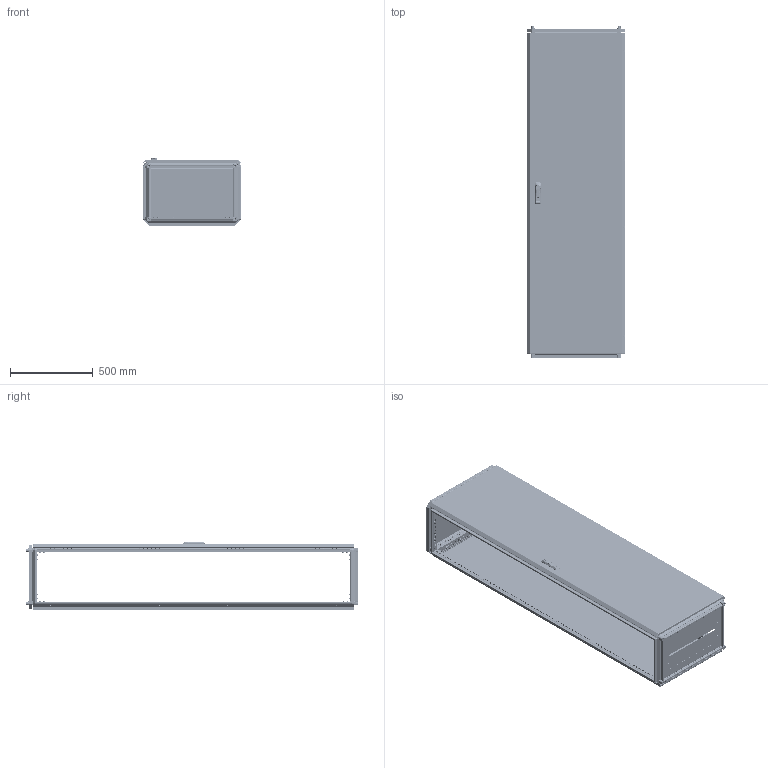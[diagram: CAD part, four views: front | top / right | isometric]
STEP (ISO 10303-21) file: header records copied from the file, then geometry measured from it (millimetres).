
FILE_DESCRIPTION (( 'STEP AP203' ), '1' );
FILE_NAME ('MA1.000.060420.10.00 AleSta2064 Øêàô AleSta 600õ400õ2000.STEP', '2024-08-23T08:23:59', ( '' ), ( '' ), 'SwSTEP 2.0', 'SolidWorks 2021', '' );
FILE_SCHEMA (( 'CONFIG_CONTROL_DESIGN' ));
Length unit declared in the file: millimetre
Products named in the file (51): MA1.200.060620.11.01 Ïîëîòíî çàäíåé ïàíåëè 2000õ600_2000å600; MA1.101.060620.00.02 Ïðîôèëü ïîïåðå÷íûé ñâàðíîé_00 L=298 (˜=400); ﾘ琺矜 01.019 ﾃﾎﾑﾒ11371-78_12; MA1.200.060620.31.01 Ïîëîòíî äâåðè ñïëîøíîé 2000õ600_‚=2000; Óïëîòíèòåëü ïàíåëè íèæíåé_¯® ¢ëá®â¥ 600å2000; MS463-2-3(1); òÿãà_lg001-2.STEP_‚=2000; Øàéáà ñòîïîðíàÿ ñ íàðóæíûìè çóáöàìè SCHNORR, òèï VS öèíêîâûå õëîïüÿ Ì6 O6,4 ART 88121_Œ6; MA1.100.060620.00.01 Ñîåäèíèòåëü óãëîâîé_00; MA1.101.060620.00.00 AleSta-RB66 Êîìïëåêò êðûøà è îñíîâàíèå_600å400; Âèíò ñàìîíàðåçàþùèé ñ ïîòàéíîé ãîëîâêîé Ì5x14 DIN 7500 M TORX, êëàññ ïðî÷íîñòè 8.8, îöèíêîâàííàÿ ñòàëü_Œ5å14; êðåïëåíèå_êðóãëîé_òÿãè_RG1020-1.stp; Øïèëüêà Ì6õ12_˜¯¨«ìª  Œ6å16; Øïèëüêà Ì6õ12_˜¯¨«ìª  Œ6å20; ﾘ琺矜 65ﾃ 019 ﾃﾎﾑﾒ 6402-70_12; MA1.200.060620.31.03 Ðåéêà íà äâåðü ãîðèçîíòàëüíàÿ Ø = 600_˜ = 600; MA1.000.060420.10.00 AleSta2064 Øêàô AleSta 600õ400õ2000; Îñü ïåòëè 4õ52_‚¨­â A.M4x0,5x40 ƒŽ‘’ 11644-75; MA1.101.060620.00.02 Ïðîôèëü ïîïåðå÷íûé ñâàðíîé_01 L=498 (˜=600); Âèíò_ðåçüáîâûäàâëèâàþùèé_Ì5õ12_DIN 7500E_00; MA1.200.060620.31.00 Äâåðü ñïëîøíàÿ äëÿ øêàôîâ ALESTA ÂõØ 2000õ600_2000å600; Ãàéêà ñàìîêîíòðÿùàÿñÿ ñ íåéëîíîâîé âñòàâêîé Ì6 DIN 985, êëàññ ïðî÷íîñòè 8, îöèíêîâàííàÿ ñòàëü_Œ5; MA1.200.060620.11.00 Ïàíåëü çàäíÿÿ, äëÿ øêàôîâ AleSta, 2000x600_2000å600; MA1.101.060620.20.01 Ïîëîòíî íèæíåé ïàíåëè 600õ600_600å400; Øïèëüêà Ì6õ12_˜¯¨«ìª  Œ6å12; 7380-2 ISO Âèíòû ñ ïîëóêðóãëîé ãîëîâêîé ñ ôëàíöåì ñ âíóòðåííèì øåñòèãðàííèêîì Ì4õ10; Âèíò ñ âí. øåñòèãðàííèêîì M12 DIN912_•30; MA1.102.060620.00.01 Ïðîôèëü âåðòèêàëüíûé ñâàðíîé_04 L=1898 (‚=2000); 諘蜱齁罻 022 瀁錒瀔隮; MA1.101.060620.20.00 Íèæíÿÿ ïàíåëü 600õ600_600å400; Ïåòëÿ íà äâåðü ï-îáðàçíàÿ; MA1.101.060620.20.02 Çàêðûòèå íèæíåé ïàíåëè 600õ600_600å400; MA1.200.060620.31.04 ðèãåëü çàìêà äâåðè; Óïëîòíèòåëü ïàíåëè íèæíåé_600å400; Ïðîáêà ïëàñòèêîâàÿ óíèâåðñàëüíàÿ ïîä îòâåðñòèå 4,5 ìì, ñåðèÿ ST, öâåò áåñöâåòíûé – ST4,5; Áîëò øåñòèãðàííûé Ì5õ12 DIN 933, êëàññ ïðî÷íîñòè 8.8, îöèíêîâàííàÿ ñòàëü; Âèíò ñàìîíàðåçàþùèé ñ ïîòàéíîé ãîëîâêîé Ì5x14 DIN 7500 M TORX, êëàññ ïðî÷íîñòè 8.8, îöèíêîâàííàÿ ñòàëü_Œ5å12; MA1.101.060620.10.00 Êðûøà 600x600_600å400; äåðæàòåëü_êðóãëîé_òÿãèRG002-RG1010-2-i-RG1010-3-.stp; MA1.200.060620.10.00 AleSta-PR206  Ïàíåëü çàäíÿÿ, äëÿ øêàôîâ ALESTA, 2000 x 600_2000å600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
Assembly tree (337 placements, depth 4):
  MA1.000.060420.10.00 AleSta2064 Øêàô AleSta 600õ400õ2000
    MA1.101.060620.00.00 AleSta-RB66 Êîìïëåêò êðûøà è îñíîâàíèå_600å400
      MA1.101.060620.00.02 Ïðîôèëü ïîïåðå÷íûé ñâàðíîé_00 L=298 (˜=400)  x4
      MA1.101.060620.00.02 Ïðîôèëü ïîïåðå÷íûé ñâàðíîé_01 L=498 (˜=600)  x4
      MA1.101.060620.10.00 Êðûøà 600x600_600å400
        MA1.101.060620.10.01 Ïîëîòíî êðûøè 600õ600_600å400
        Øïèëüêà Ì6õ12_˜¯¨«ìª  Œ6å12  x4
        Óïëîòíèòåëü ïàíåëè íèæíåé_600å400
      MA1.101.060620.20.00 Íèæíÿÿ ïàíåëü 600õ600_600å400
        MA1.101.060620.20.01 Ïîëîòíî íèæíåé ïàíåëè 600õ600_600å400
        ﾇﾀﾊﾋﾅﾏﾊﾀ ﾃﾀﾅﾗﾍﾀﾟ ﾘﾅﾑﾒﾈﾃﾐﾀﾍﾍﾀﾟ ﾑ ﾓﾌﾅﾍﾜﾘﾅﾍﾍﾛﾌ ﾁﾎﾐﾒﾎﾌ M4 X 11 (0.5-2.5 ﾌﾌ) HEX U-S ﾖﾈﾍﾊ  x4
        MA1.101.060620.20.02 Çàêðûòèå íèæíåé ïàíåëè 600õ600_600å400  x2
        7380-2 ISO Âèíòû ñ ïîëóêðóãëîé ãîëîâêîé ñ ôëàíöåì ñ âíóòðåííèì øåñòèãðàííèêîì Ì4õ10  x4
      Âèíò_ðåçüáîâûäàâëèâàþùèé_Ì5õ12_DIN 7500E_Œ5å12  x8
      MA1.100.060620.00.01 Ñîåäèíèòåëü óãëîâîé_00  x8
      Âèíò ñ âí. øåñòèãðàííèêîì M12 DIN912_•30  x4
      Âèíò ðåçüáîâûäàâëèâàþùèé Ì6õ12 DIN 7500E_Œ6å10  x96
      ﾘ琺矜 01.019 ﾃﾎﾑﾒ11371-78_12  x4
      ﾘ琺矜 65ﾃ 019 ﾃﾎﾑﾒ 6402-70_12  x4
      Øàéáà ñòîïîðíàÿ ñ íàðóæíûìè çóáöàìè SCHNORR, òèï VS öèíêîâûå õëîïüÿ Ì6 O6,4 ART 88121_Œ6  x80
    MA1.102.060620.00.00 AleSta-VG2000 Ñòîéêè âåðòèêàëüíûå, Â=2000ìì  (4øò)_600å400
      MA1.102.060620.00.01 Ïðîôèëü âåðòèêàëüíûé ñâàðíîé_04 L=1898 (‚=2000)  x4
    MA1.200.060620.10.00 AleSta-PR206  Ïàíåëü çàäíÿÿ, äëÿ øêàôîâ ALESTA, 2000 x 600_2000å600
      MA1.200.060620.11.00 Ïàíåëü çàäíÿÿ, äëÿ øêàôîâ AleSta, 2000x600_2000å600
        MA1.200.060620.11.01 Ïîëîòíî çàäíåé ïàíåëè 2000õ600_2000å600
        Óïëîòíèòåëü ïàíåëè íèæíåé_¯® ¢ëá®â¥ 600å2000
        Øïèëüêà Ì6õ12_˜¯¨«ìª  Œ6å12  x4
      Âèíò ñàìîíàðåçàþùèé ñ ïîòàéíîé ãîëîâêîé Ì5x14 DIN 7500 M TORX, êëàññ ïðî÷íîñòè 8.8, îöèíêîâàííàÿ ñòàëü_Œ5å14  x8
    MA1.200.060620.30.00 AleSta-D20M600 Äâåðü ñïëîøíàÿ äëÿ øêàôîâ ALESTA ÂõØ 2000õ600_2000å600
      MA1.200.060620.31.00 Äâåðü ñïëîøíàÿ äëÿ øêàôîâ ALESTA ÂõØ 2000õ600_2000å600
        MA1.200.060620.31.01 Ïîëîòíî äâåðè ñïëîøíîé 2000õ600_‚=2000
        Óïëîòíèòåëü ïàíåëè íèæíåé_‚=2000
        Øïèëüêà Ì6õ12_˜¯¨«ìª  Œ6å20  x16
        Øïèëüêà Ì6õ12_˜¯¨«ìª  Œ6å16  x4
        Ïåòëÿ íà äâåðü ï-îáðàçíàÿ  x4
      MA1.200.060620.31.03 Ðåéêà íà äâåðü ãîðèçîíòàëüíàÿ Ø = 600_˜ = 600  x2
      諘蜱齁罻 022 瀁錒瀔隮  x4
      MA1.200.060620.31.02 Ðåéêà íà äâåðü âåðòèêàëüíàÿ Â = 2000_‚ =2000  x2
      äåðæàòåëü_êðóãëîé_òÿãèRG002-RG1010-2-i-RG1010-3-.stp  x2
      òÿãà_lg001-2.STEP_‚=2000  x2
      êðåïëåíèå_êðóãëîé_òÿãè_RG1020-1.stp  x2
      MS463-2-3(1)
      Ãàéêà ñàìîêîíòðÿùàÿñÿ ñ íåéëîíîâîé âñòàâêîé Ì6 DIN 985, êëàññ ïðî÷íîñòè 8, îöèíêîâàííàÿ ñòàëü_Œ6  x16
      Ãàéêà ñàìîêîíòðÿùàÿñÿ ñ íåéëîíîâîé âñòàâêîé Ì6 DIN 985, êëàññ ïðî÷íîñòè 8, îöèíêîâàííàÿ ñòàëü_Œ5  x2
      Áîëò øåñòèãðàííûé Ì5õ12 DIN 933, êëàññ ïðî÷íîñòè 8.8, îöèíêîâàííàÿ ñòàëü  x2
      MA1.200.060620.31.04 ðèãåëü çàìêà äâåðè
      MA1.200.060620.31.05 Óãëîâîé óïîð äâåðíîé òÿãè  x2
      Âèíò_ðåçüáîâûäàâëèâàþùèé_Ì5õ12_DIN 7500E_00  x2
      Íàâåñêà íà êîðïóñ ïîä êëåïêó  x4
      Îñü ïåòëè 4õ52_‚¨­â A.M4x0,5x40 ƒŽ‘’ 11644-75  x4
      Âèíò ñàìîíàðåçàþùèé ñ ïîòàéíîé ãîëîâêîé Ì5x14 DIN 7500 M TORX, êëàññ ïðî÷íîñòè 8.8, îöèíêîâàííàÿ ñòàëü_Œ5å12  x8
  Ïðîáêà ïëàñòèêîâàÿ óíèâåðñàëüíàÿ ïîä îòâåðñòèå 4,5 ìì, ñåðèÿ ST, öâåò áåñöâåòíûé – ST4,5
Bounding box: 592 x 2010.9 x 416.8 mm (x, y, z)
Volume: 8643345.8 mm3; surface area: 10823370 mm2
Topology: 364 solids, 378 shells, 23435 faces, 60342 edges, 37736 vertices
Faces by surface type: plane 13993, cylinder 6749, bspline 921, cone 845, torus 829, sphere 98
Entity records: 247589 total; most frequent: CARTESIAN_POINT 79627, ORIENTED_EDGE 32082, DIRECTION 31612, EDGE_CURVE 16058, AXIS2_PLACEMENT_3D 10874, VERTEX_POINT 9997, LINE 9864, VECTOR 9864
